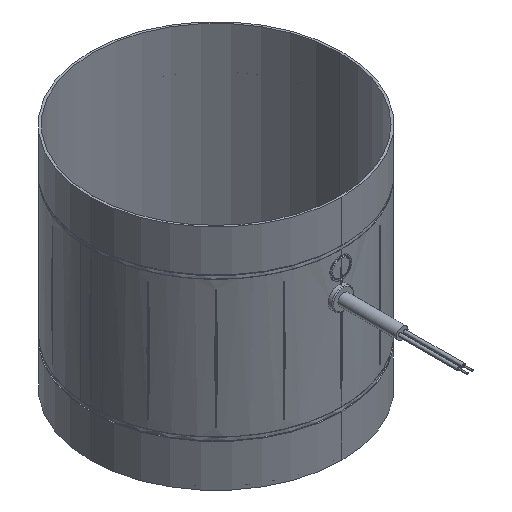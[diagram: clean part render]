
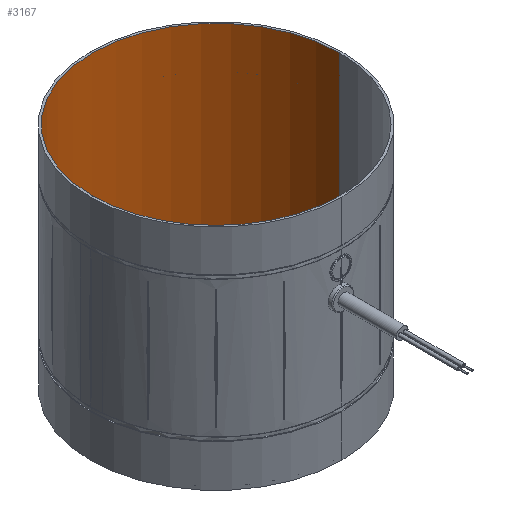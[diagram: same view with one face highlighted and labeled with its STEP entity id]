
A CAD part, isometric view. The second image highlights one B-rep face of the part: STEP entity #3167.
In plain terms, the highlighted cylindrical face has radius 73.25 mm (diameter 146.5 mm), a partial arc.
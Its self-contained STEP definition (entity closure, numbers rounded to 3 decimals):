
#545 = CIRCLE ( 'NONE', #2876, 73.25 ) ;
#582 = CIRCLE ( 'NONE', #2793, 73.25 ) ;
#647 = LINE ( 'NONE', #4274, #772 ) ;
#691 = VECTOR ( 'NONE', #4222, 1000. ) ;
#717 = LINE ( 'NONE', #4317, #691 ) ;
#772 = VECTOR ( 'NONE', #4275, 1000. ) ;
#1857 = EDGE_CURVE ( 'NONE', #5558, #5498, #582, .T. ) ;
#2729 = EDGE_CURVE ( 'NONE', #5496, #5498, #717, .T. ) ;
#2733 = EDGE_CURVE ( 'NONE', #5512, #5558, #647, .T. ) ;
#2746 = AXIS2_PLACEMENT_3D ( 'NONE', #4857, #4842, #4815 ) ;
#2793 = AXIS2_PLACEMENT_3D ( 'NONE', #6629, #6630, #6631 ) ;
#2876 = AXIS2_PLACEMENT_3D ( 'NONE', #5210, #5211, #5212 ) ;
#2955 = EDGE_CURVE ( 'NONE', #5496, #5512, #545, .T. ) ;
#3167 = ADVANCED_FACE ( 'NONE', ( #6071 ), #6027, .F. ) ;
#4222 = DIRECTION ( 'NONE',  ( 0., 0., 1. ) ) ;
#4274 = CARTESIAN_POINT ( 'NONE',  ( 73.25, 0., 40.341 ) ) ;
#4275 = DIRECTION ( 'NONE',  ( 0., 0., 1. ) ) ;
#4317 = CARTESIAN_POINT ( 'NONE',  ( -73.25, 0., 40.341 ) ) ;
#4812 = CARTESIAN_POINT ( 'NONE',  ( -73.25, 0., 42.079 ) ) ;
#4815 = DIRECTION ( 'NONE',  ( 1., 0., 0. ) ) ;
#4821 = CARTESIAN_POINT ( 'NONE',  ( -73.25, 0., 175.341 ) ) ;
#4830 = CARTESIAN_POINT ( 'NONE',  ( 73.25, 0., 175.341 ) ) ;
#4837 = CARTESIAN_POINT ( 'NONE',  ( 73.25, 0., 42.079 ) ) ;
#4842 = DIRECTION ( 'NONE',  ( 0., 0., 1. ) ) ;
#4857 = CARTESIAN_POINT ( 'NONE',  ( 0., 0., 40.341 ) ) ;
#5210 = CARTESIAN_POINT ( 'NONE',  ( 0., 0., 42.079 ) ) ;
#5211 = DIRECTION ( 'NONE',  ( 0., 0., -1. ) ) ;
#5212 = DIRECTION ( 'NONE',  ( 0., -1., 0. ) ) ;
#5492 = ORIENTED_EDGE ( 'NONE', *, *, #2733, .T. ) ;
#5496 = VERTEX_POINT ( 'NONE', #4812 ) ;
#5498 = VERTEX_POINT ( 'NONE', #4821 ) ;
#5512 = VERTEX_POINT ( 'NONE', #4837 ) ;
#5524 = ORIENTED_EDGE ( 'NONE', *, *, #1857, .T. ) ;
#5558 = VERTEX_POINT ( 'NONE', #4830 ) ;
#5571 = ORIENTED_EDGE ( 'NONE', *, *, #2955, .T. ) ;
#5598 = ORIENTED_EDGE ( 'NONE', *, *, #2729, .F. ) ;
#6027 = CYLINDRICAL_SURFACE ( 'NONE', #2746, 73.25 ) ;
#6071 = FACE_OUTER_BOUND ( 'NONE', #6378, .T. ) ;
#6378 = EDGE_LOOP ( 'NONE', ( #5598, #5571, #5492, #5524 ) ) ;
#6629 = CARTESIAN_POINT ( 'NONE',  ( 0., 0., 175.341 ) ) ;
#6630 = DIRECTION ( 'NONE',  ( 0., 0., 1. ) ) ;
#6631 = DIRECTION ( 'NONE',  ( 1., 0., 0. ) ) ;
